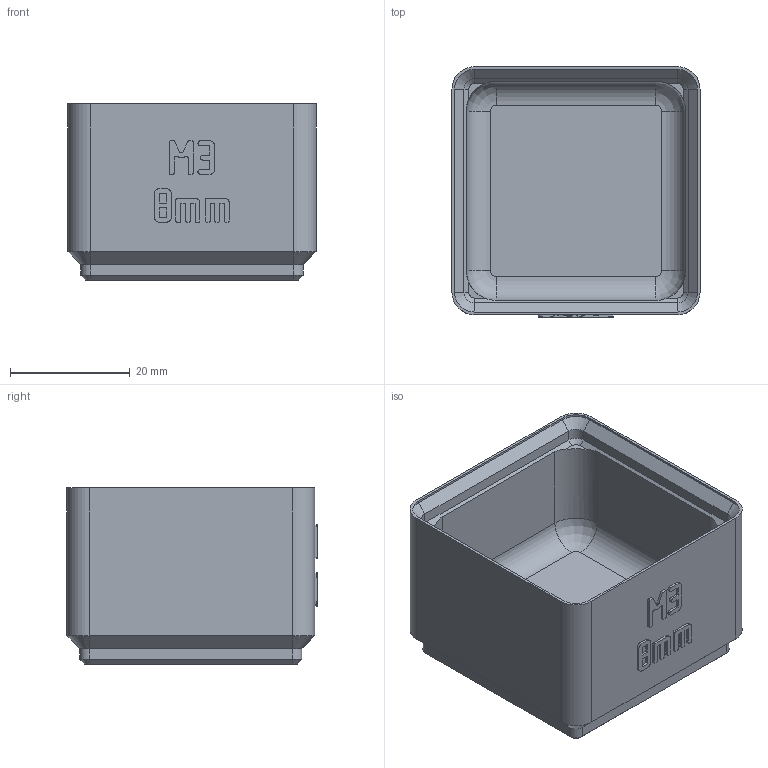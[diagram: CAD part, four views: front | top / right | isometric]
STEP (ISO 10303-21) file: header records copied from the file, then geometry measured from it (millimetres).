
FILE_DESCRIPTION(('Open CASCADE Model'),'2;1');
FILE_NAME('Open CASCADE Shape Model','2026-11-03T10:23:29',('Author'),( 'Open CASCADE'),'Open CASCADE STEP processor 8.0','build123d', 'Unknown');
FILE_SCHEMA(('AUTOMOTIVE_DESIGN { 1 0 10303 214 1 1 1 1 }'));
Length unit declared in the file: millimetre
Products named in the file (1): COMPOUND
Bounding box: 41.5 x 41.9 x 29.5 mm (x, y, z)
Volume: 18937.3 mm3; surface area: 10639.1 mm2
Topology: 1 solids, 1 shells, 564 faces, 1606 edges, 1052 vertices
Faces by surface type: plane 520, cylinder 24, cone 16, revolution 4
Entity records: 37810 total; most frequent: CARTESIAN_POINT 7731, DIRECTION 4856, LINE 3574, VECTOR 3574, ORIENTED_EDGE 3212, PCURVE 3212, DEFINITIONAL_REPRESENTATION 3212, EDGE_CURVE 1606
